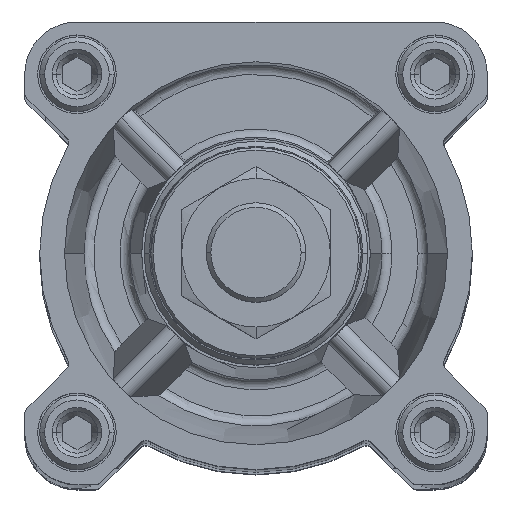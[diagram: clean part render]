
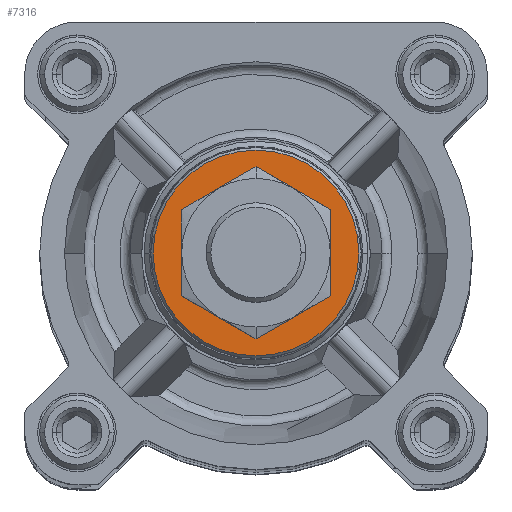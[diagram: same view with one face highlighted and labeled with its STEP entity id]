
A CAD part, top view. The second image highlights one B-rep face of the part: STEP entity #7316.
In plain terms, the highlighted planar face has unit normal (0, 0, 1).
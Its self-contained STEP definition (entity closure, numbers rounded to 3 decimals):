
#98 = CARTESIAN_POINT ( 'NONE',  ( -12.5, 0., 34.2 ) ) ;
#1074 = DIRECTION ( 'NONE',  ( 0., -1., 0. ) ) ;
#1317 = CARTESIAN_POINT ( 'NONE',  ( 20.686, 0., 34.2 ) ) ;
#1491 = DIRECTION ( 'NONE',  ( 0., 0., -1. ) ) ;
#1508 = AXIS2_PLACEMENT_3D ( 'NONE', #14433, #1491, #5821 ) ;
#1565 = VERTEX_POINT ( 'NONE', #1317 ) ;
#2408 = CIRCLE ( 'NONE', #1508, 12.5 ) ;
#2412 = EDGE_CURVE ( 'NONE', #10096, #5232, #2408, .T. ) ;
#2576 = FACE_OUTER_BOUND ( 'NONE', #7848, .T. ) ;
#3491 = ORIENTED_EDGE ( 'NONE', *, *, #4893, .T. ) ;
#4370 = CARTESIAN_POINT ( 'NONE',  ( -20.686, 0., 34.2 ) ) ;
#4779 = CIRCLE ( 'NONE', #15336, 20.686 ) ;
#4893 = EDGE_CURVE ( 'NONE', #5232, #10096, #18279, .T. ) ;
#5178 = VERTEX_POINT ( 'NONE', #4370 ) ;
#5232 = VERTEX_POINT ( 'NONE', #10055 ) ;
#5579 = ORIENTED_EDGE ( 'NONE', *, *, #2412, .T. ) ;
#5821 = DIRECTION ( 'NONE',  ( -1., 0., 0. ) ) ;
#7047 = ORIENTED_EDGE ( 'NONE', *, *, #8132, .F. ) ;
#7316 = ADVANCED_FACE ( 'NONE', ( #2576, #11100 ), #16942, .F. ) ;
#7848 = EDGE_LOOP ( 'NONE', ( #9455, #7047 ) ) ;
#8132 = EDGE_CURVE ( 'NONE', #1565, #5178, #4779, .T. ) ;
#8259 = DIRECTION ( 'NONE',  ( 0., 0., -1. ) ) ;
#9455 = ORIENTED_EDGE ( 'NONE', *, *, #14944, .F. ) ;
#9642 = EDGE_LOOP ( 'NONE', ( #5579, #3491 ) ) ;
#9728 = CARTESIAN_POINT ( 'NONE',  ( 0., 0., 34.2 ) ) ;
#10055 = CARTESIAN_POINT ( 'NONE',  ( 12.5, 0., 34.2 ) ) ;
#10096 = VERTEX_POINT ( 'NONE', #98 ) ;
#11100 = FACE_BOUND ( 'NONE', #9642, .T. ) ;
#11239 = DIRECTION ( 'NONE',  ( 0., 0., -1. ) ) ;
#11860 = CARTESIAN_POINT ( 'NONE',  ( 0., 0., 34.2 ) ) ;
#11887 = DIRECTION ( 'NONE',  ( -1., 0., 0. ) ) ;
#12560 = AXIS2_PLACEMENT_3D ( 'NONE', #17819, #14895, #11887 ) ;
#13044 = AXIS2_PLACEMENT_3D ( 'NONE', #11860, #15819, #14588 ) ;
#14249 = AXIS2_PLACEMENT_3D ( 'NONE', #17130, #8259, #1074 ) ;
#14433 = CARTESIAN_POINT ( 'NONE',  ( 0., 0., 34.2 ) ) ;
#14588 = DIRECTION ( 'NONE',  ( -1., 0., 0. ) ) ;
#14895 = DIRECTION ( 'NONE',  ( 0., 0., -1. ) ) ;
#14944 = EDGE_CURVE ( 'NONE', #5178, #1565, #17260, .T. ) ;
#15336 = AXIS2_PLACEMENT_3D ( 'NONE', #9728, #11239, #16725 ) ;
#15819 = DIRECTION ( 'NONE',  ( 0., 0., -1. ) ) ;
#16725 = DIRECTION ( 'NONE',  ( -1., 0., 0. ) ) ;
#16942 = PLANE ( 'NONE',  #14249 ) ;
#17130 = CARTESIAN_POINT ( 'NONE',  ( 0., 0., 34.2 ) ) ;
#17260 = CIRCLE ( 'NONE', #13044, 20.686 ) ;
#17819 = CARTESIAN_POINT ( 'NONE',  ( 0., 0., 34.2 ) ) ;
#18279 = CIRCLE ( 'NONE', #12560, 12.5 ) ;
